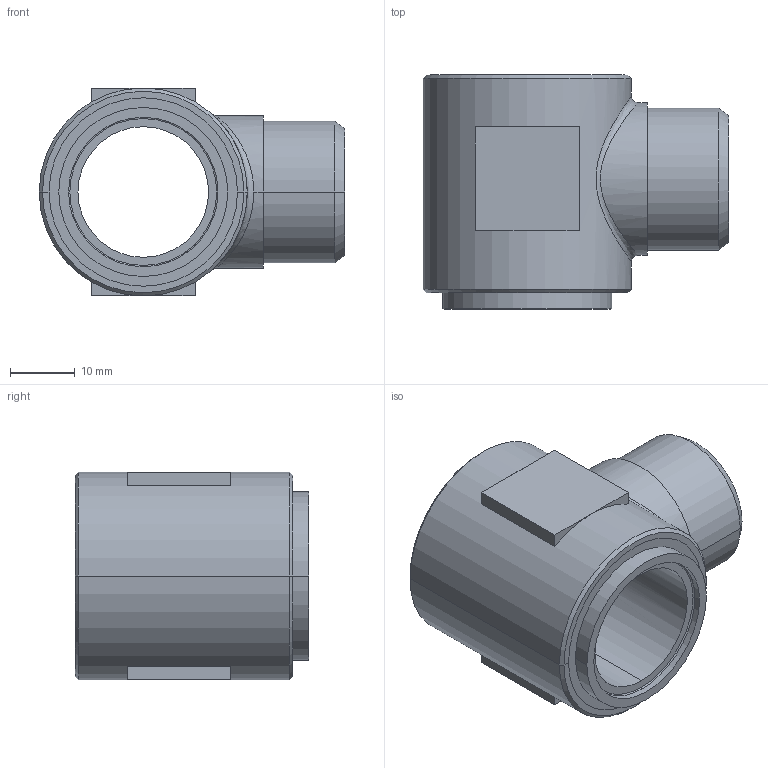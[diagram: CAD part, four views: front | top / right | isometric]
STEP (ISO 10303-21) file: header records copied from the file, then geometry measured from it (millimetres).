
FILE_DESCRIPTION((''),'2;1');
FILE_NAME('101418.stp','2007-10-30T15:45:24',(''),(''),'AutoCAD STEP 2000i','AutoCAD 2000i',', , ');
FILE_SCHEMA(('CONFIG_CONTROL_DESIGN'));
Length unit declared in the file: millimetre
Products named in the file (2): 101418.0; 1094#0
Assembly tree (1 placements, depth 2):
  101418.0
    1094#0
Bounding box: 47 x 36 x 32 mm (x, y, z)
Volume: 20866 mm3; surface area: 8619.3 mm2
Topology: 1 solids, 1 shells, 54 faces, 125 edges, 79 vertices
Faces by surface type: plane 21, cylinder 16, cone 12, bspline 5
Entity records: 2076 total; most frequent: CARTESIAN_POINT 708, DIRECTION 281, ORIENTED_EDGE 250, EDGE_CURVE 125, AXIS2_PLACEMENT_3D 114, VERTEX_POINT 79, EDGE_LOOP 64, CIRCLE 63
